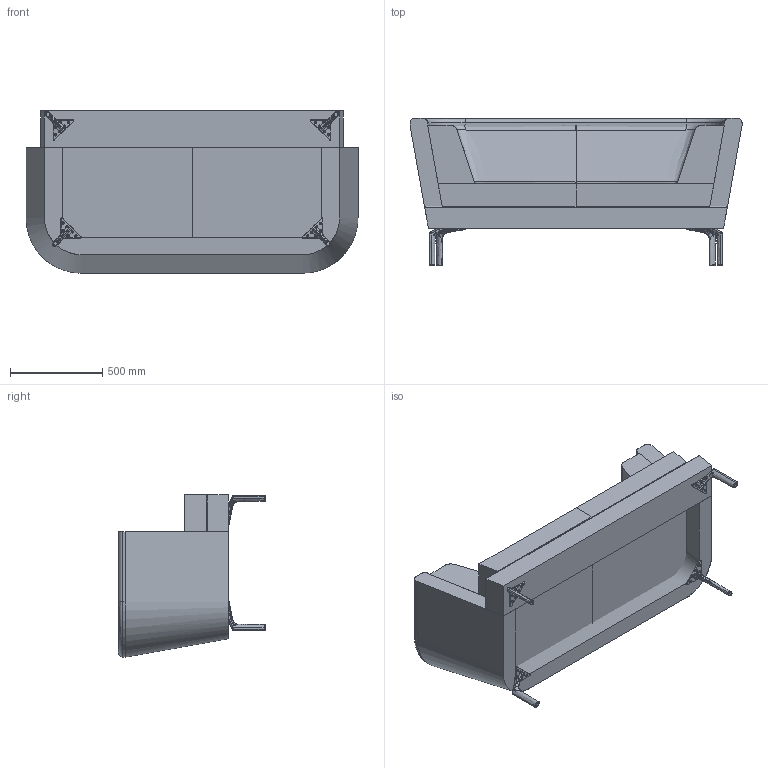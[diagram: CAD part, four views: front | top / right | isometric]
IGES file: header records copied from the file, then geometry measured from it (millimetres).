
Start section: SolidWorks IGES file using analytic representation for surfaces
Global section: file name: P:\3D CAD BLOCKS\ENTENTE\ENT1L - ENTENTE 2S SOFA LOW BACK\ENT1L - ENTENTE 2S SOFA LOW BACK.IGS; native system: SolidWorks 2012; preprocessor: SolidWorks 2012; author: adam; date: 140710.121556; units: millimetre
Bounding box: 1800 x 797.5 x 880 mm (x, y, z)
Surface area: 10134079 mm2 (no closed solid volume)
Topology: 0 solids, 0 shells, 584 faces, 7368 edges, 7364 vertices
Faces by surface type: bspline 334, revolution 250
